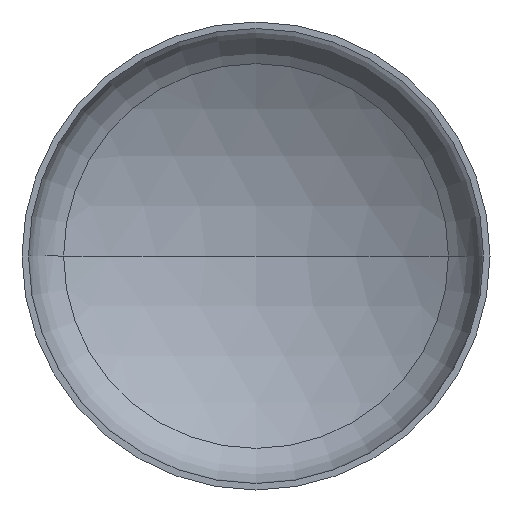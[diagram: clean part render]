
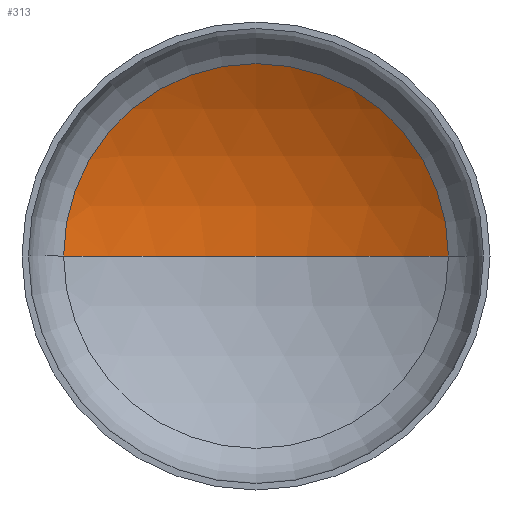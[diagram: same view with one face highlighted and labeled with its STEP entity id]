
A CAD part, front view. The second image highlights one B-rep face of the part: STEP entity #313.
In plain terms, the highlighted spherical face has radius 2720 mm.
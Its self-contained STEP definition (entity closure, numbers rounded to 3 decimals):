
#9 = SPHERICAL_SURFACE ( 'NONE', #13, 2720. ) ;
#13 = AXIS2_PLACEMENT_3D ( 'NONE', #180, #181, #153 ) ;
#16 = ORIENTED_EDGE ( 'NONE', *, *, #144, .F. ) ;
#47 = AXIS2_PLACEMENT_3D ( 'NONE', #63, #378, #224 ) ;
#49 = AXIS2_PLACEMENT_3D ( 'NONE', #200, #211, #212 ) ;
#53 = AXIS2_PLACEMENT_3D ( 'NONE', #217, #218, #204 ) ;
#63 = CARTESIAN_POINT ( 'NONE',  ( 0., -1732.987, 0. ) ) ;
#84 = VERTEX_POINT ( 'NONE', #333 ) ;
#114 = ORIENTED_EDGE ( 'NONE', *, *, #118, .T. ) ;
#118 = EDGE_CURVE ( 'NONE', #84, #126, #335, .T. ) ;
#121 = ORIENTED_EDGE ( 'NONE', *, *, #136, .T. ) ;
#126 = VERTEX_POINT ( 'NONE', #205 ) ;
#131 = VERTEX_POINT ( 'NONE', #230 ) ;
#134 = EDGE_LOOP ( 'NONE', ( #16, #121, #114 ) ) ;
#136 = EDGE_CURVE ( 'NONE', #131, #84, #208, .T. ) ;
#144 = EDGE_CURVE ( 'NONE', #131, #126, #387, .T. ) ;
#153 = DIRECTION ( 'NONE',  ( -1., 0., 0. ) ) ;
#180 = CARTESIAN_POINT ( 'NONE',  ( 0., -1732.987, 0. ) ) ;
#181 = DIRECTION ( 'NONE',  ( 0., 0., -1. ) ) ;
#200 = CARTESIAN_POINT ( 'NONE',  ( 0., -1732.987, 0. ) ) ;
#204 = DIRECTION ( 'NONE',  ( 1., 0., 0. ) ) ;
#205 = CARTESIAN_POINT ( 'NONE',  ( -1397.795, 600.373, 0. ) ) ;
#208 = CIRCLE ( 'NONE', #47, 2720. ) ;
#211 = DIRECTION ( 'NONE',  ( 0., 0., 1. ) ) ;
#212 = DIRECTION ( 'NONE',  ( 1., 0., 0. ) ) ;
#217 = CARTESIAN_POINT ( 'NONE',  ( 0., 600.373, 0. ) ) ;
#218 = DIRECTION ( 'NONE',  ( 0., -1., 0. ) ) ;
#224 = DIRECTION ( 'NONE',  ( -1., 0., 0. ) ) ;
#230 = CARTESIAN_POINT ( 'NONE',  ( 0., 987.013, 0. ) ) ;
#307 = FACE_OUTER_BOUND ( 'NONE', #134, .T. ) ;
#313 = ADVANCED_FACE ( 'NONE', ( #307 ), #9, .F. ) ;
#333 = CARTESIAN_POINT ( 'NONE',  ( 1397.795, 600.373, 0. ) ) ;
#335 = CIRCLE ( 'NONE', #53, 1397.795 ) ;
#378 = DIRECTION ( 'NONE',  ( 0., 0., -1. ) ) ;
#387 = CIRCLE ( 'NONE', #49, 2720. ) ;
